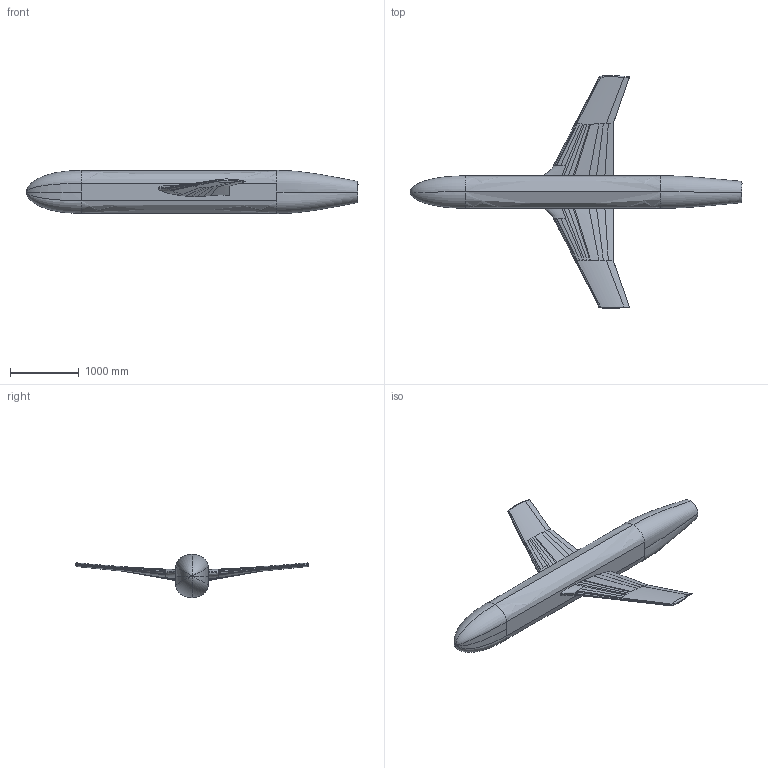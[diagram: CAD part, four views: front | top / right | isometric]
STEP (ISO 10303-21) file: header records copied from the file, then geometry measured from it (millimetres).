
FILE_DESCRIPTION(/* description */ (''),/* implementation_level */ '2;1');
FILE_NAME(/* name */ 'jfm_dlr_f6_wHorn_harrison_fuselage-2017_02_06_fullspan_mm.stp',/* time_stamp */ '2018-12-14T13:34:39-05:00',/* author */ (''),/* organization */ (''),/* preprocessor_version */ 'ST-DEVELOPER v16',/* originating_system */ 'SIEMENS PLM Software NX 10.0',/* authorisation */ '');
FILE_SCHEMA (('AP203_CONFIGURATION_CONTROLLED_3D_DESIGN_OF_MECHANICAL_PARTS_AND_ASSEMBLIES_MIM_LF { 1 0 10303 403 2 1 2}'));
Products named in the file (1): sbry191477C3owir
Bounding box: 4839.23 x 3396.77 x 629.72 mm (x, y, z)
Volume: 1206640929.1 mm3; surface area: 12017228.4 mm2
Topology: 1 solids, 1 shells, 101 faces, 276 edges, 167 vertices
Faces by surface type: bspline 98, plane 3
Entity records: 93445 total; most frequent: CARTESIAN_POINT 91720, ORIENTED_EDGE 528, EDGE_CURVE 264, B_SPLINE_CURVE_WITH_KNOTS 254, VERTEX_POINT 167, EDGE_LOOP 103, ADVANCED_FACE 101, FACE_OUTER_BOUND 99
